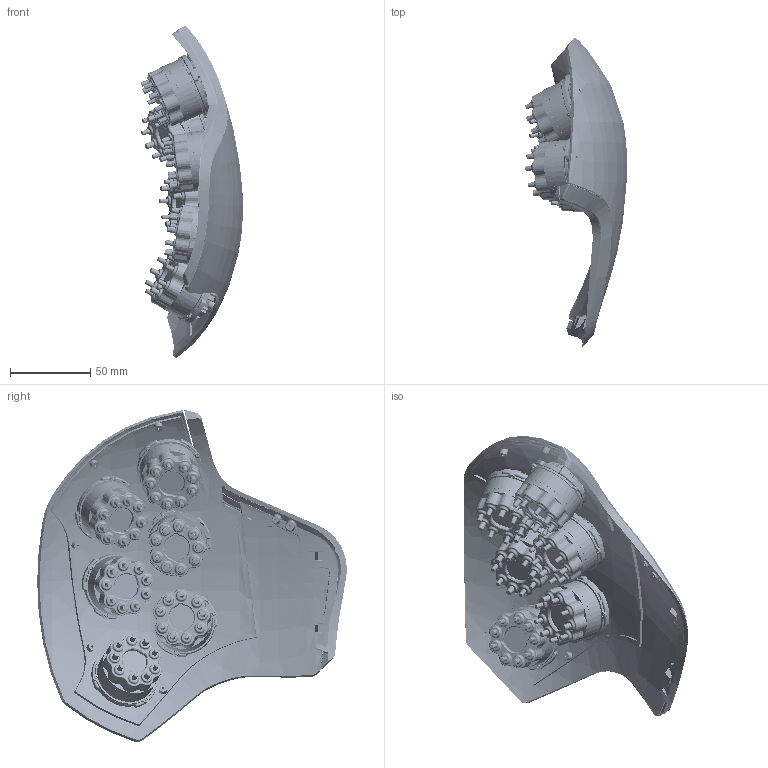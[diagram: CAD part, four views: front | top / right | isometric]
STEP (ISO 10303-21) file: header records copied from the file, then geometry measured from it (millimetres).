
FILE_DESCRIPTION (( 'STEP AP214' ), '1' );
FILE_NAME ('Kernel_Flow2_Simplified_LeftPlate_wModules.STEP', '2024-10-04T13:03:09', ( '' ), ( '' ), 'SwSTEP 2.0', 'SolidWorks 2023', '' );
FILE_SCHEMA (( 'AUTOMOTIVE_DESIGN' ));
Length unit declared in the file: millimetre
Products named in the file (9): Kernel Generic Module Flow2.STEP_M25; Kernel Generic Module Flow2.STEP_M19; Kernel_Flow2_Simplified_Left_Side_Plate_Rev.2; Kernel Generic Module Flow2.STEP_M27; Kernel_Flow2_Simplified_Left_Side_Outer_Cover_Rev.3; Kernel Generic Module Flow2.STEP_M15; Kernel Generic Module Flow2.STEP_M9; Kernel_Flow2_Simplified_LeftPlate_wModules; Kernel Generic Module Flow2.STEP_M7
Assembly tree (8 placements, depth 2):
  Kernel_Flow2_Simplified_LeftPlate_wModules
    Kernel_Flow2_Simplified_Left_Side_Outer_Cover_Rev.3
    Kernel_Flow2_Simplified_Left_Side_Plate_Rev.2
    Kernel Generic Module Flow2.STEP_M7
    Kernel Generic Module Flow2.STEP_M9
    Kernel Generic Module Flow2.STEP_M19
    Kernel Generic Module Flow2.STEP_M27
    Kernel Generic Module Flow2.STEP_M15
    Kernel Generic Module Flow2.STEP_M25
Bounding box: 63.77 x 193.21 x 207.16 mm (x, y, z)
Volume: 67101 mm3; surface area: 164979.3 mm2
Topology: 2 solids, 116 shells, 5771 faces, 14457 edges, 9004 vertices
Faces by surface type: cylinder 1944, plane 1339, torus 966, cone 862, bspline 385, sphere 275
Entity records: 245980 total; most frequent: CARTESIAN_POINT 108248, DIRECTION 29979, ORIENTED_EDGE 28490, EDGE_CURVE 14266, AXIS2_PLACEMENT_3D 12795, VERTEX_POINT 8954, CIRCLE 7409, EDGE_LOOP 6110
